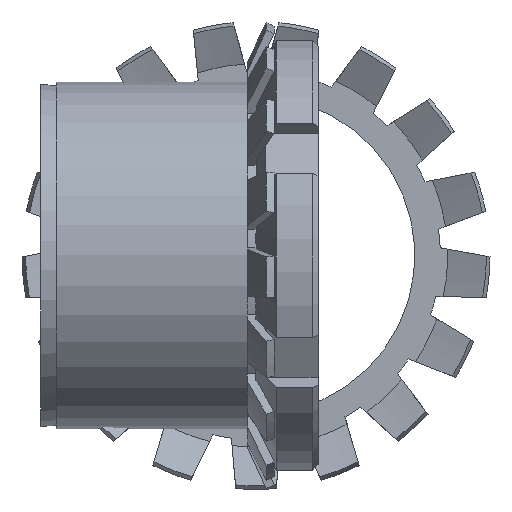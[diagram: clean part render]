
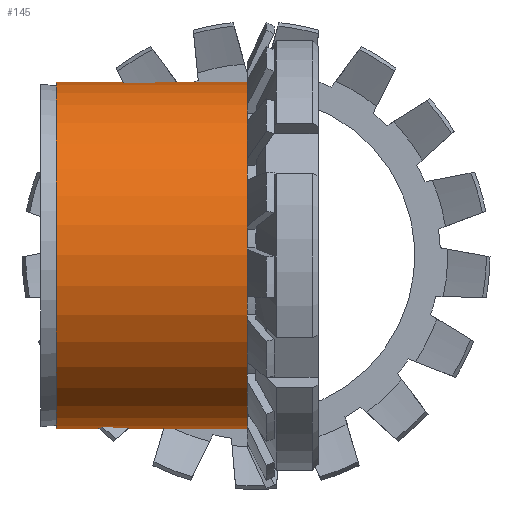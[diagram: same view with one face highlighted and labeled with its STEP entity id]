
A CAD part, left-side view. The second image highlights one B-rep face of the part: STEP entity #145.
In plain terms, the highlighted cylindrical face has radius 30 mm (diameter 60 mm), a full revolution.
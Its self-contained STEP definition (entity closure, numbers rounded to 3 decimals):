
#145 = ADVANCED_FACE( '', ( #295, #296 ), #297, .T. );
#295 = FACE_OUTER_BOUND( '', #459, .T. );
#296 = FACE_OUTER_BOUND( '', #460, .T. );
#297 = CYLINDRICAL_SURFACE( '', #461, 30. );
#459 = EDGE_LOOP( '', ( #908 ) );
#460 = EDGE_LOOP( '', ( #909 ) );
#461 = AXIS2_PLACEMENT_3D( '', #910, #911, #912 );
#908 = ORIENTED_EDGE( '', *, *, #1396, .F. );
#909 = ORIENTED_EDGE( '', *, *, #1421, .T. );
#910 = CARTESIAN_POINT( '', ( 0., -60., 0. ) );
#911 = DIRECTION( '', ( 0., 1., 0. ) );
#912 = DIRECTION( '', ( 0., 0., -1. ) );
#1396 = EDGE_CURVE( '', #1855, #1855, #1856, .T. );
#1421 = EDGE_CURVE( '', #1887, #1887, #1888, .T. );
#1855 = VERTEX_POINT( '', #3203 );
#1856 = CIRCLE( '', #3204, 30. );
#1887 = VERTEX_POINT( '', #3249 );
#1888 = CIRCLE( '', #3250, 30. );
#3203 = CARTESIAN_POINT( '', ( 0., 0., -30. ) );
#3204 = AXIS2_PLACEMENT_3D( '', #3731, #3732, #3733 );
#3249 = CARTESIAN_POINT( '', ( 0., 34.583, -30. ) );
#3250 = AXIS2_PLACEMENT_3D( '', #3754, #3755, #3756 );
#3731 = CARTESIAN_POINT( '', ( 0., 0., 0. ) );
#3732 = DIRECTION( '', ( 0., -1., 0. ) );
#3733 = DIRECTION( '', ( 0., 0., -1. ) );
#3754 = CARTESIAN_POINT( '', ( 0., 34.583, 0. ) );
#3755 = DIRECTION( '', ( 0., -1., 0. ) );
#3756 = DIRECTION( '', ( 0., 0., -1. ) );
